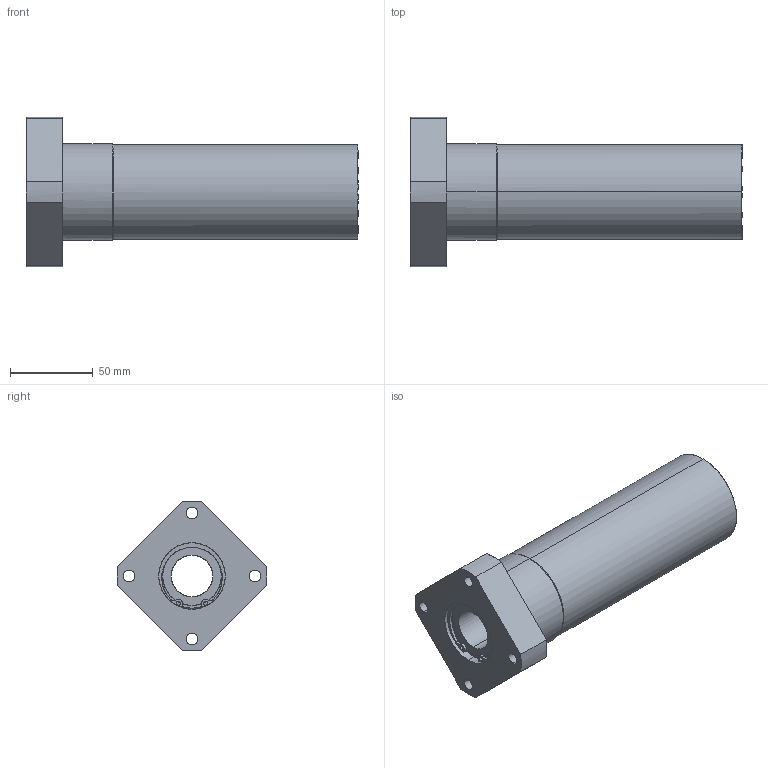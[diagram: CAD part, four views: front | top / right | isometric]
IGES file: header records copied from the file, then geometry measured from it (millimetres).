
Global section: file name: No Iges File Name specified; native system: AutoDesk Inventor R11.0; preprocessor: AutoDesk Inventor Iges Exporter R11.0; author: No Author specified; organization: No Organization specified; date: 20170922.134435; units: millimetre
Bounding box: 200 x 89.99 x 89.99 mm (x, y, z)
Surface area: 71253.9 mm2 (no closed solid volume)
Topology: 0 solids, 0 shells, 130 faces, 960 edges, 960 vertices
Faces by surface type: bspline 130
